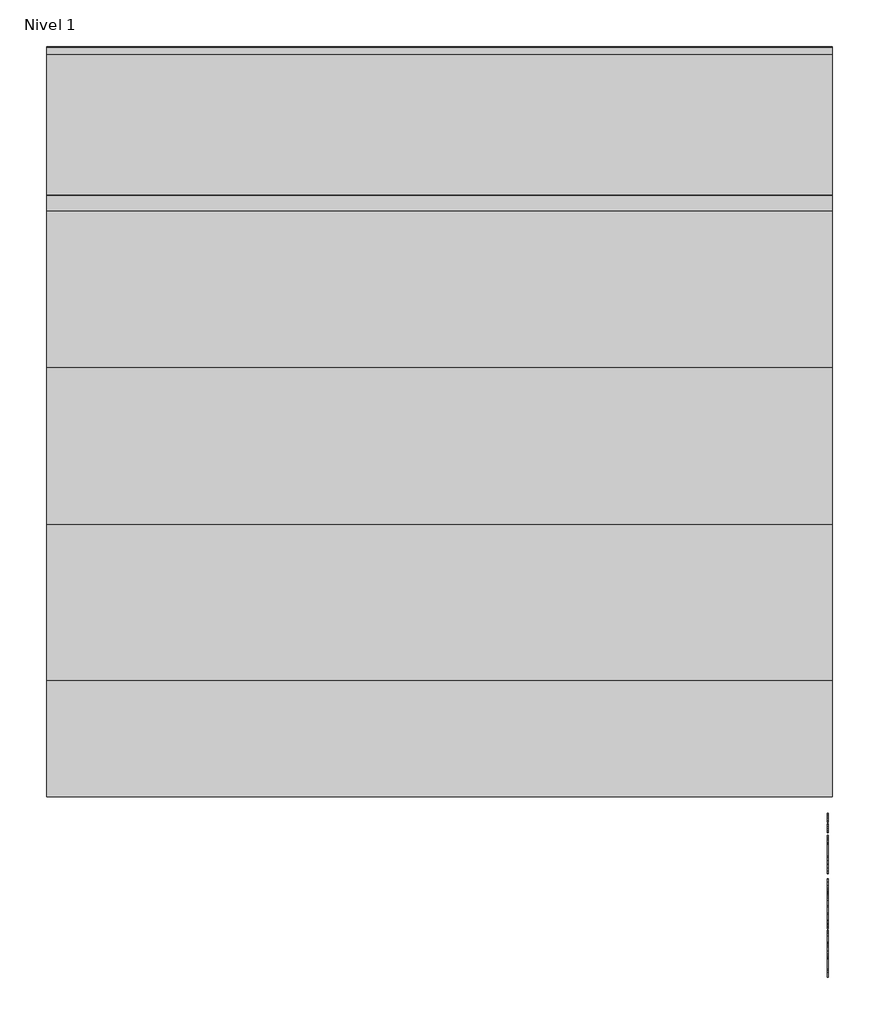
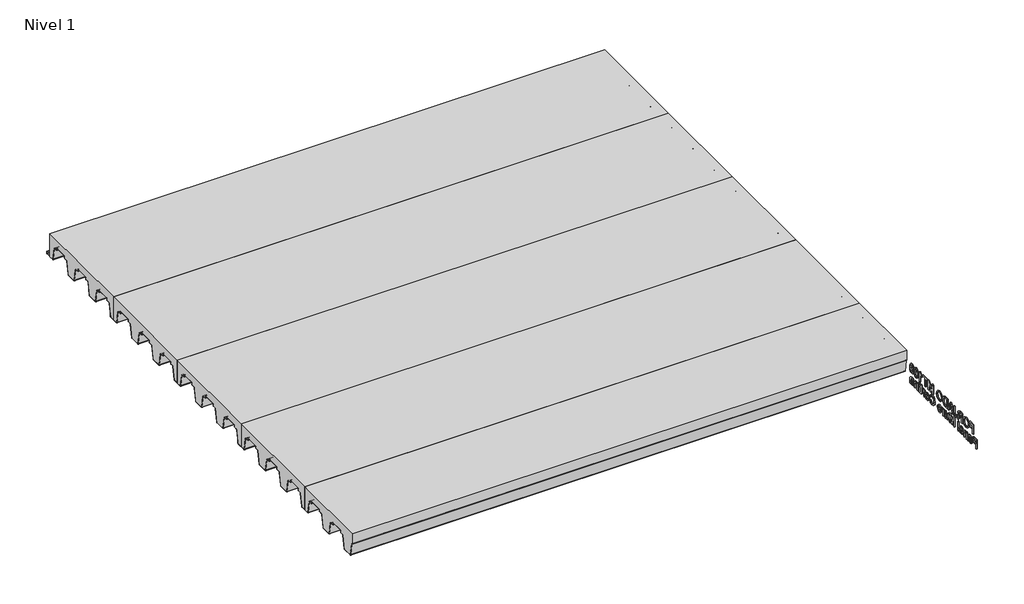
# One storey: 5 plates, 1 proxy.
"""IFC4 building model written with IfcOpenShell, lengths in millimetres."""

from ifc_helpers import new_model, si_unit, frame, origin, place, context, project, spatial, polyline, outline, extrude, transform, mapped, element, save
from components import plate_80f7fc45, plate_c60c1d2b

model = new_model("IFC4")

# Units and contexts
model_context = context("Model", 3, world=origin())
ifc_project = project(units=[si_unit("LENGTHUNIT", "METRE", prefix="MILLI")], contexts=[model_context])

# Site, building, storey
site = spatial("IfcSite", under=ifc_project)
building = spatial("IfcBuilding", under=site)
storey = spatial("IfcBuildingStorey", under=building, Name="Nivel 1", Elevation=0.0)

# Proxy
placement = place(None, origin())
element("IfcBuildingElementProxy", 1, Name="100mm Arial", ObjectType="100mm Arial", at=placement, inside=storey, context=model_context, shape_type="SweptSolid", body=[
    extrude(outline(polyline([(14707.1707075, -1467.141573), (14707.1707075, -1406.8677869), (14747.6671575, -1406.8677869), (14747.6671575, -1414.4020102), (14714.7049307, -1414.4020102), (14714.7049307, -1432.2957904), (14742.958268, -1432.2957904), (14742.958268, -1439.8300137), (14714.7049307, -1439.8300137), (14714.7049307, -1467.141573), (14707.1707075, -1467.141573)])), frame((9557.0230098, 0.0, 0.0), z_axis=(1.0, 0.0, 0.0), x_axis=(0.0, 1.0, 0.0)), (0.0, 0.0, 1.0), 5.0),
    extrude(outline(polyline([(14755.2013808, -1437.7993051), (14757.2100165, -1424.4709404), (14763.2359235, -1414.3872949), (14772.4366522, -1408.0413305), (14783.9697528, -1405.926009), (14798.9646229, -1409.8991346), (14809.1475965, -1420.9797403), (14812.6498331, -1437.1076869), (14808.9636555, -1453.4563628), (14798.5158069, -1464.3751004), (14783.925607, -1468.0833509), (14768.7688688, -1463.9851455), (14758.6447562, -1452.8015329), (14755.2013808, -1437.7993051)]), holes=[polyline([(14762.735604, -1437.8728815), (14764.2420808, -1447.301697), (14768.7615111, -1454.4864324), (14775.5544522, -1459.0334539), (14783.8814611, -1460.5491277), (14792.3298711, -1459.0187386), (14799.1338486, -1454.4275713), (14803.6201696, -1447.0221067), (14805.1156099, -1437.0488258), (14802.5551512, -1424.6144144), (14795.0724314, -1416.3812153), (14784.0138986, -1413.4602323), (14769.0190285, -1419.0888268), (14764.3064602, -1426.5991378), (14762.735604, -1437.8728815)])]), frame((9557.0230098, 0.0, 0.0), z_axis=(1.0, 0.0, 0.0), x_axis=(0.0, 1.0, 0.0)), (0.0, 0.0, 1.0), 5.0),
    extrude(outline(polyline([(14823.0093901, -1467.141573), (14823.0093901, -1406.8677869), (14848.981859, -1406.8677869), (14861.0410308, -1408.4938254), (14867.6334761, -1414.2474998), (14870.0982855, -1423.3636156), (14866.0147954, -1434.2234921), (14853.3964429, -1439.8300137), (14857.6785893, -1443.05266), (14863.7854305, -1450.8076124), (14873.8359666, -1467.141573), (14865.0803751, -1467.141573), (14857.237131, -1454.6483005), (14851.5717482, -1446.3783132), (14847.591265, -1442.4714064), (14844.0080944, -1441.0366667), (14839.6376563, -1440.7717916), (14830.5436134, -1440.7717916), (14830.5436134, -1467.141573), (14823.0093901, -1467.141573)]), holes=[polyline([(14830.5436134, -1433.2375684), (14847.407324, -1433.2375684), (14856.0084051, -1432.1707106), (14860.893878, -1428.7567657), (14862.5640622, -1423.6432059), (14859.3782042, -1417.0066147), (14849.3055951, -1414.4020102), (14830.5436134, -1414.4020102), (14830.5436134, -1433.2375684)])]), frame((9557.0230098, 0.0, 0.0), z_axis=(1.0, 0.0, 0.0), x_axis=(0.0, 1.0, 0.0)), (0.0, 0.0, 1.0), 5.0),
    extrude(outline(polyline([(14879.5160646, -1450.2190013), (14887.0502878, -1449.2477928), (14889.6254618, -1458.1505371), (14895.9824627, -1460.5491277), (14901.1401683, -1459.1879643), (14904.1273701, -1455.4797138), (14904.9440681, -1448.0117093), (14904.9440681, -1406.8677869), (14912.4782914, -1406.8677869), (14912.4782914, -1447.8792718), (14910.6609543, -1459.5852768), (14904.8925646, -1465.9054895), (14895.629296, -1468.0833509), (14883.5480513, -1463.587833), (14879.5160646, -1450.2190013)])), frame((9557.0230098, 0.0, 0.0), z_axis=(1.0, 0.0, 0.0), x_axis=(0.0, 1.0, 0.0)), (0.0, 0.0, 1.0), 5.0),
    extrude(outline(polyline([(14918.6439936, -1467.141573), (14942.7034761, -1406.8677869), (14949.1193381, -1406.8677869), (14973.1788206, -1467.141573), (14965.2178542, -1467.141573), (14958.316388, -1448.3060149), (14933.4917109, -1448.3060149), (14926.60496, -1467.141573), (14918.6439936, -1467.141573)]), holes=[polyline([(14936.2581835, -1440.7717916), (14955.5646306, -1440.7717916), (14950.1346924, -1425.9535049), (14945.9114071, -1414.4020102), (14942.1590107, -1424.6585602), (14936.2581835, -1440.7717916)])]), frame((9557.0230098, 0.0, 0.0), z_axis=(1.0, 0.0, 0.0), x_axis=(0.0, 1.0, 0.0)), (0.0, 0.0, 1.0), 5.0),
    extrude(outline(polyline([(14981.2280786, -1467.141573), (14981.2280786, -1406.8677869), (15002.020769, -1406.8677869), (15012.7776385, -1407.7359884), (15021.636237, -1412.0475654), (15028.7731477, -1422.3482613), (15031.1423077, -1436.6809438), (15029.5383422, -1448.8431226), (15025.4180639, -1457.620787), (15019.9145492, -1463.0875134), (15012.7114198, -1466.1115034), (15003.021408, -1467.141573), (14981.2280786, -1467.141573)]), holes=[polyline([(14988.7623019, -1459.6073498), (15002.0943454, -1459.6073498), (15011.7917148, -1458.5184191), (15017.3835211, -1455.4429256), (15021.9673308, -1447.9602058), (15023.6080845, -1436.5632216), (15020.3927958, -1422.2894002), (15012.5716246, -1415.6086631), (15001.8883315, -1414.4020102), (14988.7623019, -1414.4020102), (14988.7623019, -1459.6073498)])]), frame((9557.0230098, 0.0, 0.0), z_axis=(1.0, 0.0, 0.0), x_axis=(0.0, 1.0, 0.0)), (0.0, 0.0, 1.0), 5.0),
    extrude(outline(polyline([(15038.676531, -1437.7993051), (15040.6851667, -1424.4709404), (15046.7110738, -1414.3872949), (15055.9118025, -1408.0413305), (15067.444903, -1405.926009), (15082.4397731, -1409.8991346), (15092.6227467, -1420.9797403), (15096.1249833, -1437.1076869), (15092.4388058, -1453.4563628), (15081.9909571, -1464.3751004), (15067.4007572, -1468.0833509), (15052.244019, -1463.9851455), (15042.1199065, -1452.8015329), (15038.676531, -1437.7993051)]), holes=[polyline([(15046.2107542, -1437.8728815), (15047.717231, -1447.301697), (15052.2366613, -1454.4864324), (15059.0296024, -1459.0334539), (15067.3566113, -1460.5491277), (15075.8050213, -1459.0187386), (15082.6089988, -1454.4275713), (15087.0953198, -1447.0221067), (15088.5907601, -1437.0488258), (15086.0303014, -1424.6144144), (15078.5475816, -1416.3812153), (15067.4890488, -1413.4602323), (15052.4941787, -1419.0888268), (15047.7816104, -1426.5991378), (15046.2107542, -1437.8728815)])]), frame((9557.0230098, 0.0, 0.0), z_axis=(1.0, 0.0, 0.0), x_axis=(0.0, 1.0, 0.0)), (0.0, 0.0, 1.0), 5.0),
    extrude(outline(polyline([(15130.028988, -1467.141573), (15130.028988, -1406.8677869), (15142.9931495, -1406.8677869), (15155.324554, -1449.3507997), (15157.8114363, -1458.2241135), (15160.5043325, -1448.6150358), (15172.6297231, -1406.8677869), (15185.5938846, -1406.8677869), (15185.5938846, -1467.141573), (15178.0596613, -1467.141573), (15178.0596613, -1414.4020102), (15162.9176384, -1467.141573), (15152.7052342, -1467.141573), (15137.5632113, -1414.4020102), (15137.5632113, -1467.141573), (15130.028988, -1467.141573)])), frame((9557.0230098, 0.0, 0.0), z_axis=(1.0, 0.0, 0.0), x_axis=(0.0, 1.0, 0.0)), (0.0, 0.0, 1.0), 5.0),
    extrude(outline(polyline([(15213.8472218, -1467.141573), (15213.8472218, -1414.4020102), (15194.0698857, -1414.4020102), (15194.0698857, -1406.8677869), (15241.1587811, -1406.8677869), (15241.1587811, -1414.4020102), (15221.3814451, -1414.4020102), (15221.3814451, -1467.141573), (15213.8472218, -1467.141573)])), frame((9557.0230098, 0.0, 0.0), z_axis=(1.0, 0.0, 0.0), x_axis=(0.0, 1.0, 0.0)), (0.0, 0.0, 1.0), 5.0),
    extrude(outline(polyline([(15275.0627858, -1467.141573), (15267.5285625, -1467.141573), (15267.5285625, -1420.1703999), (15260.3916518, -1425.2545291), (15252.460116, -1429.0584289), (15252.460116, -1421.9362335), (15263.5039335, -1414.8876144), (15270.2067435, -1406.8677869), (15275.0627858, -1406.8677869), (15275.0627858, -1467.141573)])), frame((9557.0230098, 0.0, 0.0), z_axis=(1.0, 0.0, 0.0), x_axis=(0.0, 1.0, 0.0)), (0.0, 0.0, 1.0), 5.0),
    extrude(outline(polyline([(15292.956566, -1437.4902842), (15295.1712157, -1420.148327), (15301.7489457, -1410.1492943), (15312.7339021, -1406.8677869), (15321.5336394, -1408.8102039), (15327.61105, -1414.4093678), (15331.1427171, -1423.3268274), (15332.5112382, -1437.4902842), (15330.3186615, -1454.7586651), (15323.7630043, -1464.7797706), (15312.7339021, -1468.0833509), (15304.9053732, -1466.6486112), (15298.9604002, -1462.3443918), (15294.4575246, -1452.1503817), (15292.956566, -1437.4902842)]), holes=[polyline([(15300.4907893, -1437.4755689), (15304.0224565, -1456.1860472), (15312.7339021, -1460.5491277), (15321.4453477, -1456.1713319), (15324.9770149, -1437.4755689), (15321.56307, -1418.9784622), (15312.6456104, -1414.4020102), (15304.1401787, -1418.4339969), (15300.4907893, -1437.4755689)])]), frame((9557.0230098, 0.0, 0.0), z_axis=(1.0, 0.0, 0.0), x_axis=(0.0, 1.0, 0.0)), (0.0, 0.0, 1.0), 5.0),
    extrude(outline(polyline([(15339.1036835, -1437.4902842), (15341.3183331, -1420.148327), (15347.8960632, -1410.1492943), (15358.8810196, -1406.8677869), (15367.6807569, -1408.8102039), (15373.7581675, -1414.4093678), (15377.2898346, -1423.3268274), (15378.6583556, -1437.4902842), (15376.4657789, -1454.7586651), (15369.9101218, -1464.7797706), (15358.8810196, -1468.0833509), (15351.0524907, -1466.6486112), (15345.1075177, -1462.3443918), (15340.6046421, -1452.1503817), (15339.1036835, -1437.4902842)]), holes=[polyline([(15346.6379068, -1437.4755689), (15350.1695739, -1456.1860472), (15358.8810196, -1460.5491277), (15367.5924652, -1456.1713319), (15371.1241324, -1437.4755689), (15367.7101875, -1418.9784622), (15358.7927279, -1414.4020102), (15350.2872962, -1418.4339969), (15346.6379068, -1437.4755689)])]), frame((9557.0230098, 0.0, 0.0), z_axis=(1.0, 0.0, 0.0), x_axis=(0.0, 1.0, 0.0)), (0.0, 0.0, 1.0), 5.0),
    extrude(outline(polyline([(14669.4995912, -1540.3264637), (14669.4995912, -1480.0526776), (14691.8373859, -1480.0526776), (14700.8431372, -1480.6265736), (14708.1639889, -1483.4445496), (14712.9096666, -1489.2718004), (14714.7049307, -1497.4902842), (14709.856246, -1510.5133068), (14703.0559474, -1514.5085053), (14692.3524207, -1515.8402381), (14677.0338144, -1515.8402381), (14677.0338144, -1540.3264637), (14669.4995912, -1540.3264637)]), holes=[polyline([(14677.0338144, -1508.3060149), (14692.7938791, -1508.3060149), (14703.8892001, -1505.5395423), (14707.1707075, -1497.7551593), (14705.2356482, -1491.5158806), (14700.151519, -1488.1019357), (14692.6172958, -1487.5869009), (14677.0338144, -1487.5869009), (14677.0338144, -1508.3060149)])]), frame((9557.0230098, 0.0, 0.0), z_axis=(1.0, 0.0, 0.0), x_axis=(0.0, 1.0, 0.0)), (0.0, 0.0, 1.0), 5.0),
    extrude(outline(polyline([(14752.3760471, -1534.6757963), (14745.0699106, -1539.7819984), (14736.9985797, -1541.2682416), (14726.0577691, -1537.6924287), (14722.239154, -1528.5542399), (14723.6812514, -1522.5945516), (14727.470436, -1518.2682593), (14732.7458638, -1515.7960923), (14739.2647327, -1514.6630158), (14752.3319012, -1512.0731265), (14752.3760471, -1510.3955846), (14750.3011926, -1504.8332088), (14741.9723442, -1502.6553474), (14734.3498293, -1504.1048025), (14730.7151552, -1509.2477928), (14723.1809319, -1508.3060149), (14726.4403664, -1500.948375), (14733.0033812, -1496.636798), (14742.9435527, -1495.1211242), (14752.0743838, -1496.4602146), (14757.2320894, -1499.8226561), (14759.5423883, -1504.9362158), (14759.9102703, -1511.5286612), (14759.9102703, -1520.9022944), (14760.2928676, -1533.9915358), (14761.7938261, -1540.3264637), (14754.2596029, -1540.3264637), (14752.3760471, -1534.6757963)]), holes=[polyline([(14752.3760471, -1519.6073498), (14740.2212259, -1521.9176487), (14733.7391452, -1523.1390169), (14730.8034469, -1525.1255797), (14729.7733773, -1528.0244898), (14732.0174574, -1532.1006223), (14738.6025452, -1533.7340184), (14746.2250601, -1531.9313966), (14751.1399635, -1527.5683161), (14752.3319012, -1521.7410653), (14752.3760471, -1519.6073498)])]), frame((9557.0230098, 0.0, 0.0), z_axis=(1.0, 0.0, 0.0), x_axis=(0.0, 1.0, 0.0)), (0.0, 0.0, 1.0), 5.0),
    extrude(outline(polyline([(14770.2698273, -1540.3264637), (14770.2698273, -1496.0629021), (14777.8040506, -1496.0629021), (14777.8040506, -1502.2433196), (14783.5650826, -1496.901673), (14791.4303997, -1495.1211242), (14798.5452374, -1496.555864), (14803.4012798, -1500.3229756), (14805.6600752, -1505.8632784), (14806.0573878, -1513.1473419), (14806.0573878, -1540.3264637), (14798.5231645, -1540.3264637), (14798.5231645, -1514.1626962), (14797.654963, -1507.4966745), (14794.5868272, -1503.972365), (14789.4144063, -1502.6553474), (14781.2400684, -1505.6131187), (14777.8040506, -1516.8408772), (14777.8040506, -1540.3264637), (14770.2698273, -1540.3264637)])), frame((9557.0230098, 0.0, 0.0), z_axis=(1.0, 0.0, 0.0), x_axis=(0.0, 1.0, 0.0)), (0.0, 0.0, 1.0), 5.0),
    extrude(outline(polyline([(14847.407324, -1527.141573), (14854.7943945, -1528.0833509), (14847.8855706, -1537.8101509), (14835.0170584, -1541.2682416), (14826.1768541, -1539.7764802), (14819.374716, -1535.3011957), (14815.0373873, -1528.133015), (14813.591611, -1518.5625649), (14815.0521026, -1508.6702181), (14819.4335771, -1501.2721111), (14826.1437447, -1496.6588709), (14834.5903153, -1495.1211242), (14842.7738503, -1496.6551921), (14849.3129528, -1501.2573959), (14853.6006174, -1508.6407875), (14855.029839, -1518.5184191), (14854.9856931, -1520.5491277), (14821.1258343, -1520.5491277), (14825.4594842, -1530.3347887), (14835.1642112, -1533.7340184), (14842.5512817, -1532.1594834), (14847.407324, -1527.141573)]), holes=[polyline([(14821.1258343, -1513.0149044), (14847.4956157, -1513.0149044), (14844.4789834, -1506.1870146), (14834.5608848, -1502.6553474), (14825.2829009, -1505.4733235), (14821.1258343, -1513.0149044)])]), frame((9557.0230098, 0.0, 0.0), z_axis=(1.0, 0.0, 0.0), x_axis=(0.0, 1.0, 0.0)), (0.0, 0.0, 1.0), 5.0),
    extrude(outline(polyline([(9562.0230098, 14870.0982855), (9562.0230098, 14862.5640622), (9557.0230098, 14862.5640622), (9557.0230098, 14870.0982855), (9562.0230098, 14870.0982855)])), frame((0.0, 0.0, -1540.3264637), z_axis=(0.0, 0.0, 1.0), x_axis=(1.0, 0.0, 0.0)), (0.0, 0.0, 1.0), 60.2737861),
    extrude(outline(polyline([(14905.885846, -1540.3264637), (14905.885846, -1480.0526776), (14918.8500075, -1480.0526776), (14931.181412, -1522.5356905), (14933.6682943, -1531.4090042), (14936.3611905, -1521.7999265), (14948.486581, -1480.0526776), (14961.4507425, -1480.0526776), (14961.4507425, -1540.3264637), (14953.9165193, -1540.3264637), (14953.9165193, -1487.5869009), (14938.7744964, -1540.3264637), (14928.5620922, -1540.3264637), (14913.4200693, -1487.5869009), (14913.4200693, -1540.3264637), (14905.885846, -1540.3264637)])), frame((9557.0230098, 0.0, 0.0), z_axis=(1.0, 0.0, 0.0), x_axis=(0.0, 1.0, 0.0)), (0.0, 0.0, 1.0), 5.0),
    extrude(outline(polyline([(15001.9471926, -1540.3264637), (15001.9471926, -1532.7186641), (14996.0463654, -1539.1308473), (14988.350274, -1541.2682416), (14981.2648668, -1539.7672831), (14976.3793939, -1536.0001715), (14974.1353137, -1530.452511), (14973.6938553, -1523.4480378), (14973.6938553, -1496.0629021), (14981.2280786, -1496.0629021), (14981.2280786, -1519.9016554), (14981.6842523, -1527.5830314), (14984.6640964, -1532.0932647), (14990.2779757, -1533.7340184), (14996.5687578, -1532.0564765), (15000.7258244, -1527.4873821), (15001.9471926, -1519.092315), (15001.9471926, -1496.0629021), (15009.4814158, -1496.0629021), (15009.4814158, -1540.3264637), (15001.9471926, -1540.3264637)])), frame((9557.0230098, 0.0, 0.0), z_axis=(1.0, 0.0, 0.0), x_axis=(0.0, 1.0, 0.0)), (0.0, 0.0, 1.0), 5.0),
    extrude(outline(polyline([(15019.8409728, -1540.3264637), (15019.8409728, -1496.0629021), (15026.4334182, -1496.0629021), (15026.4334182, -1502.6112016), (15031.1128772, -1496.5779369), (15035.8217667, -1495.1211242), (15043.3854205, -1497.4461384), (15040.8691077, -1504.2004518), (15035.5716069, -1502.6553474), (15031.3115334, -1504.1415907), (15028.5965643, -1508.261869), (15027.3751961, -1517.0616064), (15027.3751961, -1540.3264637), (15019.8409728, -1540.3264637)])), frame((9557.0230098, 0.0, 0.0), z_axis=(1.0, 0.0, 0.0), x_axis=(0.0, 1.0, 0.0)), (0.0, 0.0, 1.0), 5.0),
    extrude(outline(polyline([(15046.2107542, -1518.1946829), (15047.8404715, -1507.5224262), (15052.7296232, -1500.0213123), (15066.0028056, -1495.1211242), (15073.9177867, -1496.6128857), (15080.2398388, -1501.0881701), (15084.3840295, -1508.1938109), (15085.7654264, -1517.5766412), (15083.3226899, -1530.9822611), (15076.2078521, -1538.5679878), (15066.0028056, -1541.2682416), (15057.9921751, -1539.7819984), (15051.6774807, -1535.3232686), (15047.5774359, -1528.0686357), (15046.2107542, -1518.1946829)]), holes=[polyline([(15053.7449775, -1518.1799676), (15057.2324988, -1529.8565422), (15066.0028056, -1533.7340184), (15074.7436818, -1529.8344692), (15078.2312031, -1517.9445232), (15074.7216089, -1506.5328237), (15066.0028056, -1502.6553474), (15057.2324988, -1506.5181084), (15053.7449775, -1518.1799676)])]), frame((9557.0230098, 0.0, 0.0), z_axis=(1.0, 0.0, 0.0), x_axis=(0.0, 1.0, 0.0)), (0.0, 0.0, 1.0), 5.0),
    extrude(outline(polyline([(15161.107659, -1518.9010163), (15168.6418822, -1520.8434333), (15159.7097074, -1536.0369597), (15143.9349274, -1541.2682416), (15128.2557968, -1537.3098314), (15119.0587469, -1525.8466284), (15115.9023194, -1509.733397), (15119.4707748, -1493.3552906), (15129.6169602, -1482.7382162), (15144.0967955, -1479.1108997), (15159.187315, -1483.805074), (15167.7001043, -1497.0193953), (15160.1658811, -1498.8146594), (15153.9854635, -1489.5513908), (15143.8024899, -1486.645123), (15132.0155508, -1489.8677693), (15125.3568867, -1498.5203538), (15123.4365427, -1509.7186817), (15125.7100534, -1522.6975585), (15132.788103, -1530.9896187), (15143.1844482, -1533.7340184), (15154.7138699, -1529.9963373), (15161.107659, -1518.9010163)])), frame((9557.0230098, 0.0, 0.0), z_axis=(1.0, 0.0, 0.0), x_axis=(0.0, 1.0, 0.0)), (0.0, 0.0, 1.0), 5.0),
    extrude(outline(polyline([(15176.1761055, -1518.1946829), (15177.8058227, -1507.5224262), (15182.6949744, -1500.0213123), (15195.9681568, -1495.1211242), (15203.883138, -1496.6128857), (15210.20519, -1501.0881701), (15214.3493807, -1508.1938109), (15215.7307776, -1517.5766412), (15213.2880412, -1530.9822611), (15206.1732034, -1538.5679878), (15195.9681568, -1541.2682416), (15187.9575264, -1539.7819984), (15181.6428319, -1535.3232686), (15177.5427871, -1528.0686357), (15176.1761055, -1518.1946829)]), holes=[polyline([(15183.7103288, -1518.1799676), (15187.1978501, -1529.8565422), (15195.9681568, -1533.7340184), (15204.709033, -1529.8344692), (15208.1965544, -1517.9445232), (15204.6869601, -1506.5328237), (15195.9681568, -1502.6553474), (15187.1978501, -1506.5181084), (15183.7103288, -1518.1799676)])]), frame((9557.0230098, 0.0, 0.0), z_axis=(1.0, 0.0, 0.0), x_axis=(0.0, 1.0, 0.0)), (0.0, 0.0, 1.0), 5.0),
    extrude(outline(polyline([(15224.2067788, -1540.3264637), (15224.2067788, -1496.0629021), (15230.7992241, -1496.0629021), (15230.7992241, -1502.6112016), (15235.4786831, -1496.5779369), (15240.1875727, -1495.1211242), (15247.7512265, -1497.4461384), (15245.2349136, -1504.2004518), (15239.9374129, -1502.6553474), (15235.6773394, -1504.1415907), (15232.9623703, -1508.261869), (15231.741002, -1517.0616064), (15231.741002, -1540.3264637), (15224.2067788, -1540.3264637)])), frame((9557.0230098, 0.0, 0.0), z_axis=(1.0, 0.0, 0.0), x_axis=(0.0, 1.0, 0.0)), (0.0, 0.0, 1.0), 5.0),
    extrude(outline(polyline([(15268.4703404, -1534.0430393), (15269.4121184, -1540.5471929), (15263.7761662, -1541.2682416), (15257.4633111, -1540.0174429), (15254.3142413, -1536.7359355), (15253.4018939, -1528.1863579), (15253.4018939, -1503.5971253), (15247.7512265, -1503.5971253), (15247.7512265, -1496.0629021), (15253.4018939, -1496.0629021), (15253.4018939, -1485.3060325), (15260.9361172, -1480.8767333), (15260.9361172, -1496.0629021), (15268.4703404, -1496.0629021), (15268.4703404, -1503.5971253), (15260.9361172, -1503.5971253), (15260.9361172, -1527.9656287), (15261.3334297, -1531.8504626), (15262.6210167, -1533.2263412), (15265.188833, -1533.7340184), (15268.4703404, -1534.0430393)])), frame((9557.0230098, 0.0, 0.0), z_axis=(1.0, 0.0, 0.0), x_axis=(0.0, 1.0, 0.0)), (0.0, 0.0, 1.0), 5.0),
    extrude(outline(polyline([(9562.0230098, 15283.538787), (9562.0230098, 15276.0045637), (9557.0230098, 15276.0045637), (9557.0230098, 15283.538787), (9562.0230098, 15283.538787)])), frame((0.0, 0.0, -1487.5869009), z_axis=(0.0, 0.0, 1.0), x_axis=(1.0, 0.0, 0.0)), (0.0, 0.0, 1.0), 7.5342233),
    extrude(outline(polyline([(9562.0230098, 15283.538787), (9562.0230098, 15276.0045637), (9557.0230098, 15276.0045637), (9557.0230098, 15283.538787), (9562.0230098, 15283.538787)])), frame((0.0, 0.0, -1540.3264637), z_axis=(0.0, 0.0, 1.0), x_axis=(1.0, 0.0, 0.0)), (0.0, 0.0, 1.0), 44.2635617),
    extrude(outline(polyline([(15294.8401219, -1540.3264637), (15294.8401219, -1496.0629021), (15302.3743451, -1496.0629021), (15302.3743451, -1502.2433196), (15308.1353772, -1496.901673), (15316.0006942, -1495.1211242), (15323.115532, -1496.555864), (15327.9715743, -1500.3229756), (15330.2303698, -1505.8632784), (15330.6276823, -1513.1473419), (15330.6276823, -1540.3264637), (15323.0934591, -1540.3264637), (15323.0934591, -1514.1626962), (15322.2252576, -1507.4966745), (15319.1571217, -1503.972365), (15313.9847009, -1502.6553474), (15305.810363, -1505.6131187), (15302.3743451, -1516.8408772), (15302.3743451, -1540.3264637), (15294.8401219, -1540.3264637)])), frame((9557.0230098, 0.0, 0.0), z_axis=(1.0, 0.0, 0.0), x_axis=(0.0, 1.0, 0.0)), (0.0, 0.0, 1.0), 5.0),
    extrude(outline(polyline([(15369.2405766, -1534.6757963), (15361.9344401, -1539.7819984), (15353.8631092, -1541.2682416), (15342.9222986, -1537.6924287), (15339.1036835, -1528.5542399), (15340.5457809, -1522.5945516), (15344.3349655, -1518.2682593), (15349.6103933, -1515.7960923), (15356.1292623, -1514.6630158), (15369.1964307, -1512.0731265), (15369.2405766, -1510.3955846), (15367.1657221, -1504.8332088), (15358.8368737, -1502.6553474), (15351.2143588, -1504.1048025), (15347.5796847, -1509.2477928), (15340.0454614, -1508.3060149), (15343.3048959, -1500.948375), (15349.8679107, -1496.636798), (15359.8080822, -1495.1211242), (15368.9389133, -1496.4602146), (15374.0966189, -1499.8226561), (15376.4069178, -1504.9362158), (15376.7747998, -1511.5286612), (15376.7747998, -1520.9022944), (15377.1573971, -1533.9915358), (15378.6583556, -1540.3264637), (15371.1241324, -1540.3264637), (15369.2405766, -1534.6757963)]), holes=[polyline([(15369.2405766, -1519.6073498), (15357.0857554, -1521.9176487), (15350.6036747, -1523.1390169), (15347.6679764, -1525.1255797), (15346.6379068, -1528.0244898), (15348.8819869, -1532.1006223), (15355.4670747, -1533.7340184), (15363.0895896, -1531.9313966), (15368.0044931, -1527.5683161), (15369.1964307, -1521.7410653), (15369.2405766, -1519.6073498)])]), frame((9557.0230098, 0.0, 0.0), z_axis=(1.0, 0.0, 0.0), x_axis=(0.0, 1.0, 0.0)), (0.0, 0.0, 1.0), 5.0),
])

# Plates
plate_shape = plate_80f7fc45(model_context)
element("IfcPlate", 2, ObjectType="HIANSA- H20.F10.003 - FORJADO COLABORANTE - MT-100 - Panel de Muro Cortina : -", at=placement, inside=storey, context=model_context, shape_type="MappedRepresentation", body=[
    mapped(plate_shape, transform((9579.0356399, 18310.8330794, -1529.5962409), x_axis=(0.0, -1.0, 0.0), y_axis=(0.0, 0.0, 1.0), z_axis=(-1.0, 0.0, 0.0))),
])
element("IfcPlate", 3, ObjectType="HIANSA- H20.F10.003 - FORJADO COLABORANTE - MT-100 - Panel de Muro Cortina : -", at=placement, inside=storey, context=model_context, shape_type="MappedRepresentation", body=[
    mapped(plate_shape, transform((9579.0356399, 17635.8330793, -1529.5962409), x_axis=(0.0, -1.0, 0.0), y_axis=(0.0, 0.0, 1.0), z_axis=(-1.0, 0.0, 0.0))),
])
element("IfcPlate", 4, ObjectType="HIANSA- H20.F10.003 - FORJADO COLABORANTE - MT-100 - Panel de Muro Cortina : -", at=placement, inside=storey, context=model_context, shape_type="MappedRepresentation", body=[
    mapped(plate_shape, transform((9579.0356399, 16960.8330793, -1529.5962409), x_axis=(0.0, -1.0, 0.0), y_axis=(0.0, 0.0, 1.0), z_axis=(-1.0, 0.0, 0.0))),
])
element("IfcPlate", 5, ObjectType="HIANSA- H20.F10.003 - FORJADO COLABORANTE - MT-100 - Panel de Muro Cortina : -", at=placement, inside=storey, context=model_context, shape_type="MappedRepresentation", body=[
    mapped(plate_shape, transform((9579.0356399, 16285.8330793, -1529.5962409), x_axis=(0.0, -1.0, 0.0), y_axis=(0.0, 0.0, 1.0), z_axis=(-1.0, 0.0, 0.0))),
])
plate_2_shape = plate_c60c1d2b(model_context)
element("IfcPlate", 6, ObjectType="HIANSA- H20.F10.003 - FORJADO COLABORANTE - MT-100 - Panel de Muro Cortina : -", at=placement, inside=storey, context=model_context, shape_type="MappedRepresentation", body=[
    mapped(plate_2_shape, transform((9579.0356399, 15698.3330794, -1529.5962409), x_axis=(0.0, -1.0, 0.0), y_axis=(0.0, 0.0, 1.0), z_axis=(-1.0, 0.0, 0.0))),
])

save(model, "model.ifc")
